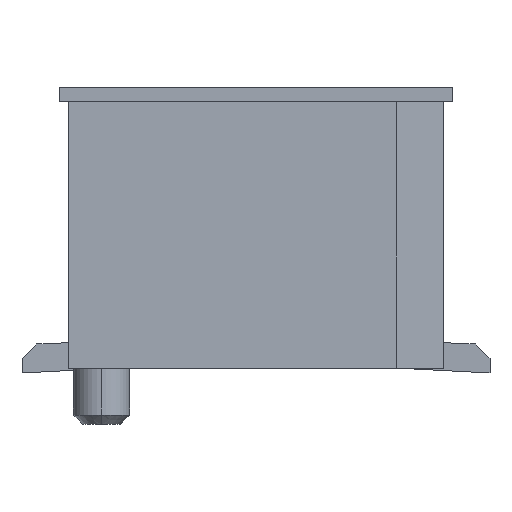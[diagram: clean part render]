
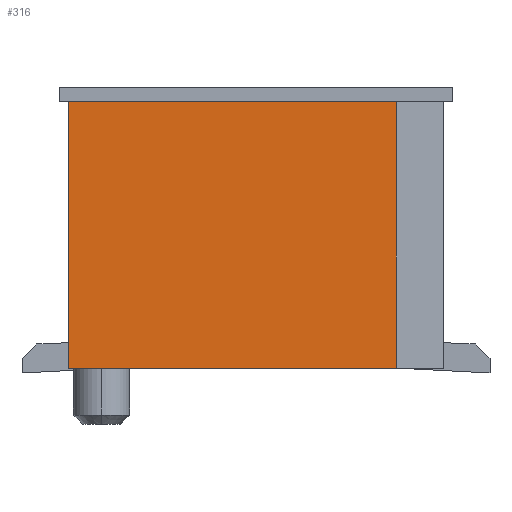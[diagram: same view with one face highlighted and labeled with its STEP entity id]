
A CAD part, left-side view. The second image highlights one B-rep face of the part: STEP entity #316.
In plain terms, the highlighted planar face has unit normal (-1, 0, 0).
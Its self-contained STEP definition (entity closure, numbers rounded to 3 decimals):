
#277=CARTESIAN_POINT('Axis2P3D Location',(-2.95,0.,0.)) ;
#282=CARTESIAN_POINT('Line Origine',(-2.95,-1.5,1.425)) ;
#286=CARTESIAN_POINT('Vertex',(-2.95,-1.5,2.85)) ;
#288=CARTESIAN_POINT('Vertex',(-2.95,-1.5,0.)) ;
#291=CARTESIAN_POINT('Line Origine',(-2.95,0.25,2.85)) ;
#295=CARTESIAN_POINT('Vertex',(-2.95,2.,2.85)) ;
#298=CARTESIAN_POINT('Line Origine',(-2.95,2.,1.425)) ;
#302=CARTESIAN_POINT('Vertex',(-2.95,2.,0.)) ;
#305=CARTESIAN_POINT('Line Origine',(-2.95,0.25,0.)) ;
#278=DIRECTION('Axis2P3D Direction',(1.,0.,0.)) ;
#279=DIRECTION('Axis2P3D XDirection',(0.,1.,0.)) ;
#283=DIRECTION('Vector Direction',(0.,0.,-1.)) ;
#292=DIRECTION('Vector Direction',(0.,-1.,0.)) ;
#299=DIRECTION('Vector Direction',(0.,0.,1.)) ;
#306=DIRECTION('Vector Direction',(0.,1.,0.)) ;
#280=AXIS2_PLACEMENT_3D('Plane Axis2P3D',#277,#278,#279) ;
#311=ORIENTED_EDGE('',*,*,#290,.F.) ;
#312=ORIENTED_EDGE('',*,*,#297,.F.) ;
#313=ORIENTED_EDGE('',*,*,#304,.F.) ;
#314=ORIENTED_EDGE('',*,*,#309,.F.) ;
#284=VECTOR('Line Direction',#283,1.) ;
#293=VECTOR('Line Direction',#292,1.) ;
#300=VECTOR('Line Direction',#299,1.) ;
#307=VECTOR('Line Direction',#306,1.) ;
#316=ADVANCED_FACE('\X2\96F64EF651E04F554F53\X0\',(#315),#281,.F.) ;
#290=EDGE_CURVE('',#287,#289,#285,.T.) ;
#297=EDGE_CURVE('',#296,#287,#294,.T.) ;
#304=EDGE_CURVE('',#303,#296,#301,.T.) ;
#309=EDGE_CURVE('',#289,#303,#308,.T.) ;
#310=EDGE_LOOP('',(#311,#312,#313,#314)) ;
#315=FACE_OUTER_BOUND('',#310,.T.) ;
#285=LINE('Line',#282,#284) ;
#294=LINE('Line',#291,#293) ;
#301=LINE('Line',#298,#300) ;
#308=LINE('Line',#305,#307) ;
#281=PLANE('Plane',#280) ;
#287=VERTEX_POINT('',#286) ;
#289=VERTEX_POINT('',#288) ;
#296=VERTEX_POINT('',#295) ;
#303=VERTEX_POINT('',#302) ;
